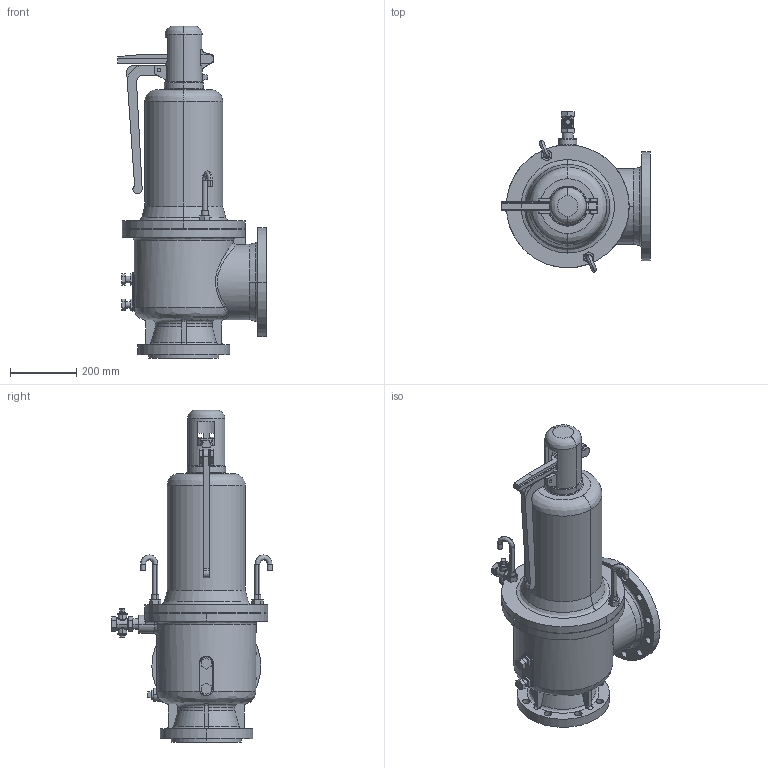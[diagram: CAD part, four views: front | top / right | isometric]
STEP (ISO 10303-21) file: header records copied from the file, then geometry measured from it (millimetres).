
FILE_DESCRIPTION( (''), '2;1');
FILE_NAME ('PC1027.9568.AF-4 150A_32085.stp','2025-07-28T12:55:15',(''),(''),'spGate 19.8.4 (****-****-****-****)','','');
FILE_SCHEMA (('AUTOMOTIVE_DESIGN'));
Length unit declared in the file: millimetre
Products named in the file (10): Assembly; AF-4 本体部P 150A; プラグ 20A; 止めボルト 150A; 背圧絞り弁 150A; フックボルト 150A; ナット M20; レバーキャップ 150A; レバー支え 150A; レバー 150A
Assembly tree (12 placements, depth 2):
  Assembly
    AF-4 本体部P 150A
    プラグ 20A
    止めボルト 150A  x2
    背圧絞り弁 150A
    フックボルト 150A  x2
    ナット M20  x2
    レバーキャップ 150A
    レバー支え 150A
    レバー 150A
Bounding box: 450 x 485.2 x 1005.5 mm (x, y, z)
Volume: 50780042.5 mm3; surface area: 1541523.5 mm2
Topology: 12 solids, 12 shells, 528 faces, 1376 edges, 872 vertices
Faces by surface type: plane 198, cylinder 181, bspline 147, sphere 2
Entity records: 34200 total; most frequent: CARTESIAN_POINT 13022, ORIENTED_EDGE 2504, DIRECTION 2148, COLOUR_RGB 1744, PRESENTATION_STYLE_ASSIGNMENT 1744, STYLED_ITEM 1744, EDGE_CURVE 1252, DRAUGHTING_PRE_DEFINED_CURVE_FONT 1252
